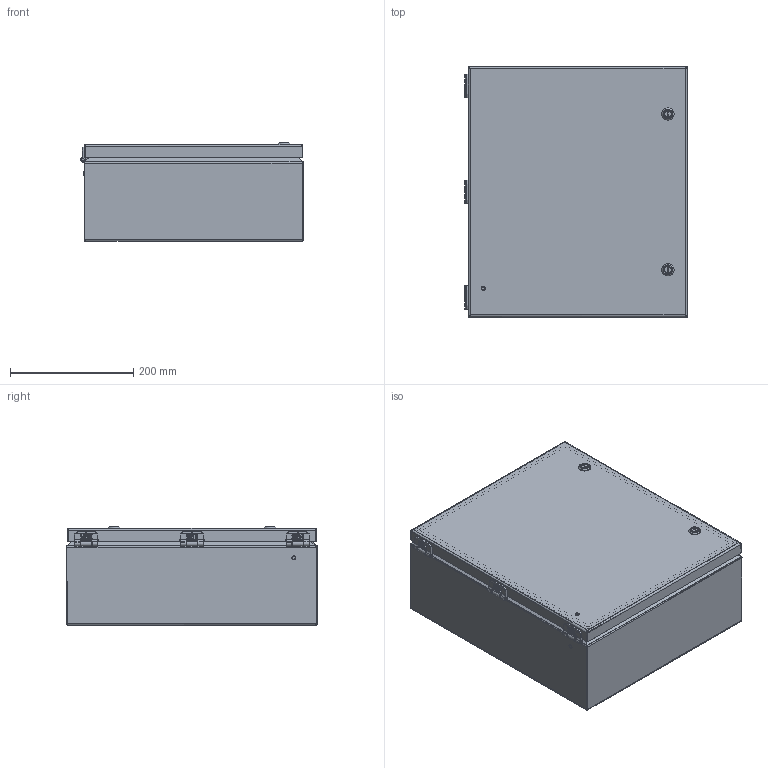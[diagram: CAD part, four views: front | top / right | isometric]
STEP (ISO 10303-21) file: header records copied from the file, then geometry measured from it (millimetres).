
FILE_DESCRIPTION((''),'2;1');
FILE_NAME('MODEL-059_ASM','2025-05-15T10:21:47',('joshi'),('SAGINAW CONTROL & ENGINEERING'),'CREO PARAMETRIC BY PTC INC, 2021284','CREO PARAMETRIC BY PTC INC, 2021284','');
FILE_SCHEMA(('AUTOMOTIVE_DESIGN { 1 0 10303 214 1 1 1 1 }'));
Length unit declared in the file: inch
Products named in the file (25): MODEL-059-BDY; MODEL-059-DR; 112643-BOX-LEAF; 112643-BOX-LEAF-STUD; 112643-BOX_ASM; 112643-DOOR-LEAF; 112643-DOOR-LEAF-STUD; 112643-DOOR_ASM; 112643-PIN; 112643_ASM; 113152; 100097; 100012; 112987_SHAFT; 112987_INSERT; 112984; 112987_SCREW; 112987_NUT; 112987_ASM; MODEL-059-GSKT; 120704; CH-ELJ_SUBPANEL; 102479; CH-ELJ_SUBPANEL-SUBASSEMBLY_ASM; MODEL-059_ASM
Assembly tree (43 placements, depth 4):
  MODEL-059_ASM
    MODEL-059-BDY
    MODEL-059-DR
    112643_ASM  x3
      112643-BOX_ASM
        112643-BOX-LEAF
        112643-BOX-LEAF-STUD
      112643-DOOR_ASM
        112643-DOOR-LEAF
        112643-DOOR-LEAF-STUD
      112643-PIN
    113152  x6
    100097  x2
    100012  x6
    112987_ASM  x2
      112987_SHAFT
      112987_INSERT
      112984
      112987_SCREW
      112987_NUT
    MODEL-059-GSKT
    120704
    CH-ELJ_SUBPANEL-SUBASSEMBLY_ASM
      CH-ELJ_SUBPANEL
      102479  x6
Bounding box: 361.2 x 406.4 x 159.91 mm (x, y, z)
Volume: 1160552.2 mm3; surface area: 1423098.8 mm2
Topology: 51 solids, 54 shells, 4417 faces, 11304 edges, 6940 vertices
Faces by surface type: plane 1484, cylinder 1282, bspline 1248, cone 189, torus 178, sphere 36
Entity records: 106225 total; most frequent: CARTESIAN_POINT 56166, ORIENTED_EDGE 7518, DIRECTION 6380, PRESENTATION_STYLE_ASSIGNMENT 3928, STYLED_ITEM 3928, EDGE_CURVE 3759, CURVE_STYLE 3669, AXIS2_PLACEMENT_3D 2350
